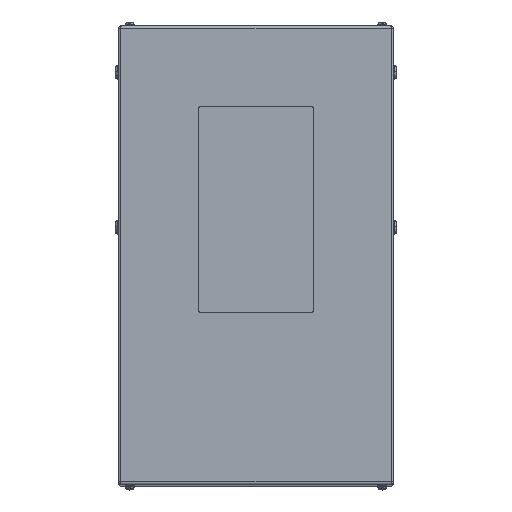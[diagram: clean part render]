
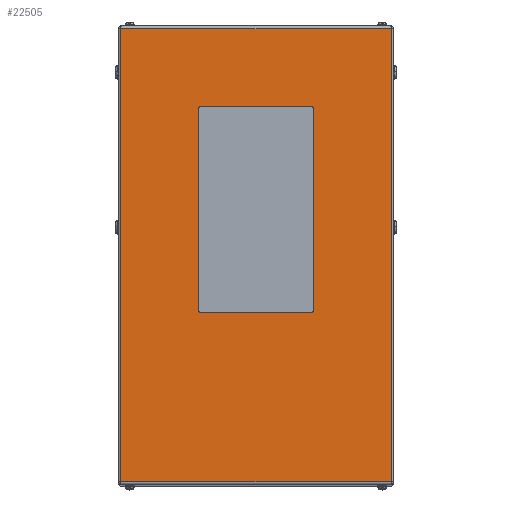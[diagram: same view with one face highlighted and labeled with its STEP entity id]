
A CAD part, top view. The second image highlights one B-rep face of the part: STEP entity #22505.
In plain terms, the highlighted planar face has unit normal (0, 0, 1).
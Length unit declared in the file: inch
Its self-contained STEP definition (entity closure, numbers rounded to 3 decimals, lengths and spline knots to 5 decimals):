
#146 = DIRECTION ( 'NONE',  ( -1., 0., 0. ) ) ;
#454 = VERTEX_POINT ( 'NONE', #15818 ) ;
#841 = CARTESIAN_POINT ( 'NONE',  ( 5., -4.75, 28. ) ) ;
#890 = DIRECTION ( 'NONE',  ( 0., 1., 0. ) ) ;
#1154 = LINE ( 'NONE', #8215, #11975 ) ;
#1402 = VECTOR ( 'NONE', #4086, 39.37008 ) ;
#1658 = CARTESIAN_POINT ( 'NONE',  ( -4.75, 12.75, 28. ) ) ;
#2146 = CARTESIAN_POINT ( 'NONE',  ( 4.75, 13., 28. ) ) ;
#2157 = ORIENTED_EDGE ( 'NONE', *, *, #18740, .F. ) ;
#2230 = FACE_OUTER_BOUND ( 'NONE', #16981, .T. ) ;
#2235 = LINE ( 'NONE', #19171, #9383 ) ;
#2395 = EDGE_CURVE ( 'NONE', #14360, #20704, #22406, .T. ) ;
#2527 = ORIENTED_EDGE ( 'NONE', *, *, #2395, .F. ) ;
#3159 = EDGE_LOOP ( 'NONE', ( #2527, #7838, #2157, #23123, #9711, #16593, #9419, #4100 ) ) ;
#3224 = VECTOR ( 'NONE', #13247, 39.37008 ) ;
#3338 = CARTESIAN_POINT ( 'NONE',  ( -4.75, -4.75, 28. ) ) ;
#3941 = AXIS2_PLACEMENT_3D ( 'NONE', #3338, #6890, #20052 ) ;
#4002 = VERTEX_POINT ( 'NONE', #23785 ) ;
#4086 = DIRECTION ( 'NONE',  ( 1., 0., 0. ) ) ;
#4093 = CARTESIAN_POINT ( 'NONE',  ( 5., 12.75, 28. ) ) ;
#4100 = ORIENTED_EDGE ( 'NONE', *, *, #22930, .F. ) ;
#4617 = VECTOR ( 'NONE', #4847, 39.37008 ) ;
#4847 = DIRECTION ( 'NONE',  ( 0., -1., 0. ) ) ;
#4867 = CIRCLE ( 'NONE', #12265, 0.25 ) ;
#5389 = ORIENTED_EDGE ( 'NONE', *, *, #9795, .T. ) ;
#6835 = CARTESIAN_POINT ( 'NONE',  ( 11.8, 19.734, 28. ) ) ;
#6890 = DIRECTION ( 'NONE',  ( 0., 0., 1. ) ) ;
#6978 = EDGE_CURVE ( 'NONE', #13958, #20143, #2235, .T. ) ;
#7400 = EDGE_CURVE ( 'NONE', #23436, #4002, #21874, .T. ) ;
#7838 = ORIENTED_EDGE ( 'NONE', *, *, #8155, .F. ) ;
#8155 = EDGE_CURVE ( 'NONE', #13531, #14360, #10200, .T. ) ;
#8157 = VECTOR ( 'NONE', #11416, 39.37008 ) ;
#8215 = CARTESIAN_POINT ( 'NONE',  ( 11.8, -19.734, 28. ) ) ;
#8560 = EDGE_CURVE ( 'NONE', #12532, #454, #1154, .T. ) ;
#9220 = CARTESIAN_POINT ( 'NONE',  ( -5., -4.75, 28. ) ) ;
#9383 = VECTOR ( 'NONE', #890, 39.37008 ) ;
#9419 = ORIENTED_EDGE ( 'NONE', *, *, #6978, .F. ) ;
#9711 = ORIENTED_EDGE ( 'NONE', *, *, #14082, .F. ) ;
#9795 = EDGE_CURVE ( 'NONE', #4002, #12532, #21525, .T. ) ;
#9825 = LINE ( 'NONE', #13608, #16735 ) ;
#10200 = CIRCLE ( 'NONE', #3941, 0.25 ) ;
#10202 = VECTOR ( 'NONE', #10793, 39.37008 ) ;
#10749 = CARTESIAN_POINT ( 'NONE',  ( -4.75, 13., 28. ) ) ;
#10793 = DIRECTION ( 'NONE',  ( -1., 0., 0. ) ) ;
#10868 = ORIENTED_EDGE ( 'NONE', *, *, #8560, .T. ) ;
#11155 = FACE_BOUND ( 'NONE', #3159, .T. ) ;
#11416 = DIRECTION ( 'NONE',  ( 0., -1., 0. ) ) ;
#11464 = DIRECTION ( 'NONE',  ( 0., 0., 1. ) ) ;
#11680 = CARTESIAN_POINT ( 'NONE',  ( 4.75, -5., 28. ) ) ;
#11745 = CARTESIAN_POINT ( 'NONE',  ( -4.75, -5., 28. ) ) ;
#11818 = AXIS2_PLACEMENT_3D ( 'NONE', #1658, #20650, #22021 ) ;
#11975 = VECTOR ( 'NONE', #19451, 39.37008 ) ;
#12265 = AXIS2_PLACEMENT_3D ( 'NONE', #22779, #22652, #19362 ) ;
#12532 = VERTEX_POINT ( 'NONE', #16927 ) ;
#12831 = VERTEX_POINT ( 'NONE', #2146 ) ;
#12967 = PLANE ( 'NONE',  #23557 ) ;
#13085 = ORIENTED_EDGE ( 'NONE', *, *, #7400, .T. ) ;
#13247 = DIRECTION ( 'NONE',  ( -1., 0., 0. ) ) ;
#13531 = VERTEX_POINT ( 'NONE', #9220 ) ;
#13608 = CARTESIAN_POINT ( 'NONE',  ( 11.8, 20., 28. ) ) ;
#13958 = VERTEX_POINT ( 'NONE', #841 ) ;
#14082 = EDGE_CURVE ( 'NONE', #12831, #20545, #16561, .T. ) ;
#14241 = EDGE_CURVE ( 'NONE', #20545, #19291, #21951, .T. ) ;
#14360 = VERTEX_POINT ( 'NONE', #11745 ) ;
#14454 = EDGE_CURVE ( 'NONE', #20143, #12831, #21181, .T. ) ;
#14620 = ORIENTED_EDGE ( 'NONE', *, *, #18761, .T. ) ;
#15818 = CARTESIAN_POINT ( 'NONE',  ( 11.8, -19.734, 28. ) ) ;
#16561 = LINE ( 'NONE', #20464, #3224 ) ;
#16593 = ORIENTED_EDGE ( 'NONE', *, *, #14454, .F. ) ;
#16735 = VECTOR ( 'NONE', #18726, 39.37008 ) ;
#16927 = CARTESIAN_POINT ( 'NONE',  ( -11.8, -19.734, 28. ) ) ;
#16981 = EDGE_LOOP ( 'NONE', ( #5389, #10868, #14620, #13085 ) ) ;
#18471 = CARTESIAN_POINT ( 'NONE',  ( 12., 19.734, 28. ) ) ;
#18651 = CARTESIAN_POINT ( 'NONE',  ( 4.75, 12.75, 28. ) ) ;
#18726 = DIRECTION ( 'NONE',  ( 0., 1., 0. ) ) ;
#18740 = EDGE_CURVE ( 'NONE', #19291, #13531, #19081, .T. ) ;
#18761 = EDGE_CURVE ( 'NONE', #454, #23436, #9825, .T. ) ;
#19081 = LINE ( 'NONE', #22414, #8157 ) ;
#19171 = CARTESIAN_POINT ( 'NONE',  ( 5., 12.75, 28. ) ) ;
#19291 = VERTEX_POINT ( 'NONE', #19466 ) ;
#19362 = DIRECTION ( 'NONE',  ( 1., 0., 0. ) ) ;
#19451 = DIRECTION ( 'NONE',  ( 1., 0., 0. ) ) ;
#19466 = CARTESIAN_POINT ( 'NONE',  ( -5., 12.75, 28. ) ) ;
#20052 = DIRECTION ( 'NONE',  ( 1., 0., 0. ) ) ;
#20143 = VERTEX_POINT ( 'NONE', #4093 ) ;
#20405 = AXIS2_PLACEMENT_3D ( 'NONE', #18651, #11464, #146 ) ;
#20407 = CARTESIAN_POINT ( 'NONE',  ( 12., 20., 28. ) ) ;
#20464 = CARTESIAN_POINT ( 'NONE',  ( -4.75, 13., 28. ) ) ;
#20545 = VERTEX_POINT ( 'NONE', #10749 ) ;
#20650 = DIRECTION ( 'NONE',  ( 0., 0., 1. ) ) ;
#20704 = VERTEX_POINT ( 'NONE', #11680 ) ;
#20795 = CARTESIAN_POINT ( 'NONE',  ( -4.75, -5., 28. ) ) ;
#21181 = CIRCLE ( 'NONE', #20405, 0.25 ) ;
#21399 = CARTESIAN_POINT ( 'NONE',  ( -11.8, 20., 28. ) ) ;
#21525 = LINE ( 'NONE', #21399, #4617 ) ;
#21874 = LINE ( 'NONE', #18471, #10202 ) ;
#21951 = CIRCLE ( 'NONE', #11818, 0.25 ) ;
#22021 = DIRECTION ( 'NONE',  ( 1., 0., 0. ) ) ;
#22366 = DIRECTION ( 'NONE',  ( 0., 0., -1. ) ) ;
#22406 = LINE ( 'NONE', #20795, #1402 ) ;
#22414 = CARTESIAN_POINT ( 'NONE',  ( -5., 12.75, 28. ) ) ;
#22484 = DIRECTION ( 'NONE',  ( -1., 0., 0. ) ) ;
#22505 = ADVANCED_FACE ( 'NONE', ( #11155, #2230 ), #12967, .F. ) ;
#22652 = DIRECTION ( 'NONE',  ( 0., 0., 1. ) ) ;
#22779 = CARTESIAN_POINT ( 'NONE',  ( 4.75, -4.75, 28. ) ) ;
#22930 = EDGE_CURVE ( 'NONE', #20704, #13958, #4867, .T. ) ;
#23123 = ORIENTED_EDGE ( 'NONE', *, *, #14241, .F. ) ;
#23436 = VERTEX_POINT ( 'NONE', #6835 ) ;
#23557 = AXIS2_PLACEMENT_3D ( 'NONE', #20407, #22366, #22484 ) ;
#23785 = CARTESIAN_POINT ( 'NONE',  ( -11.8, 19.734, 28. ) ) ;
